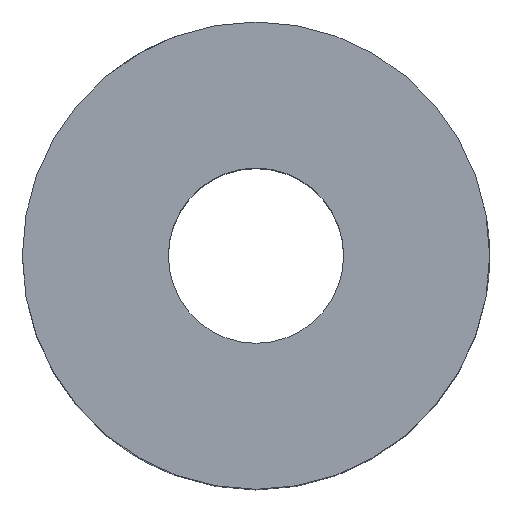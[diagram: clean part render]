
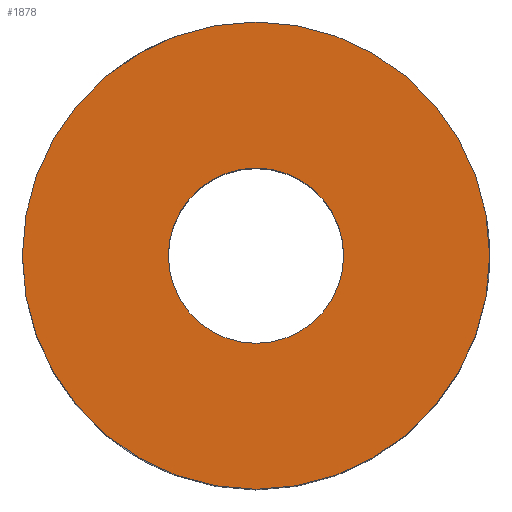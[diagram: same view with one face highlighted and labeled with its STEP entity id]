
A CAD part, top view. The second image highlights one B-rep face of the part: STEP entity #1878.
In plain terms, the highlighted planar face has unit normal (0, 0, 1).
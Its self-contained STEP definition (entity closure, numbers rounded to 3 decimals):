
#53 = CYLINDRICAL_SURFACE('',#54,120.);
#54 = AXIS2_PLACEMENT_3D('',#55,#56,#57);
#55 = CARTESIAN_POINT('',(0.,0.,-95.));
#56 = DIRECTION('',(-0.,-0.,-1.));
#57 = DIRECTION('',(1.,0.,0.));
#315 = VERTEX_POINT('',#316);
#316 = CARTESIAN_POINT('',(120.,0.,105.));
#337 = EDGE_CURVE('',#315,#315,#338,.T.);
#338 = SURFACE_CURVE('',#339,(#344,#351),.PCURVE_S1.);
#339 = CIRCLE('',#340,120.);
#340 = AXIS2_PLACEMENT_3D('',#341,#342,#343);
#341 = CARTESIAN_POINT('',(0.,0.,105.));
#342 = DIRECTION('',(0.,0.,1.));
#343 = DIRECTION('',(1.,0.,0.));
#344 = PCURVE('',#53,#345);
#345 = DEFINITIONAL_REPRESENTATION('',(#346),#350);
#346 = LINE('',#347,#348);
#347 = CARTESIAN_POINT('',(-0.,-200.));
#348 = VECTOR('',#349,1.);
#349 = DIRECTION('',(-1.,0.));
#350 = ( GEOMETRIC_REPRESENTATION_CONTEXT(2) 
PARAMETRIC_REPRESENTATION_CONTEXT() REPRESENTATION_CONTEXT('2D SPACE',''
  ) );
#351 = PCURVE('',#352,#357);
#352 = PLANE('',#353);
#353 = AXIS2_PLACEMENT_3D('',#354,#355,#356);
#354 = CARTESIAN_POINT('',(0.,0.,105.));
#355 = DIRECTION('',(0.,0.,1.));
#356 = DIRECTION('',(1.,0.,0.));
#357 = DEFINITIONAL_REPRESENTATION('',(#358),#362);
#358 = CIRCLE('',#359,120.);
#359 = AXIS2_PLACEMENT_2D('',#360,#361);
#360 = CARTESIAN_POINT('',(0.,0.));
#361 = DIRECTION('',(1.,0.));
#362 = ( GEOMETRIC_REPRESENTATION_CONTEXT(2) 
PARAMETRIC_REPRESENTATION_CONTEXT() REPRESENTATION_CONTEXT('2D SPACE',''
  ) );
#1878 = ADVANCED_FACE('',(#1879,#1882),#352,.T.);
#1879 = FACE_BOUND('',#1880,.T.);
#1880 = EDGE_LOOP('',(#1881));
#1881 = ORIENTED_EDGE('',*,*,#337,.T.);
#1882 = FACE_BOUND('',#1883,.T.);
#1883 = EDGE_LOOP('',(#1884));
#1884 = ORIENTED_EDGE('',*,*,#1885,.F.);
#1885 = EDGE_CURVE('',#1886,#1886,#1888,.T.);
#1886 = VERTEX_POINT('',#1887);
#1887 = CARTESIAN_POINT('',(45.,0.,105.));
#1888 = SURFACE_CURVE('',#1889,(#1894,#1901),.PCURVE_S1.);
#1889 = CIRCLE('',#1890,45.);
#1890 = AXIS2_PLACEMENT_3D('',#1891,#1892,#1893);
#1891 = CARTESIAN_POINT('',(0.,0.,105.));
#1892 = DIRECTION('',(0.,0.,1.));
#1893 = DIRECTION('',(1.,0.,0.));
#1894 = PCURVE('',#352,#1895);
#1895 = DEFINITIONAL_REPRESENTATION('',(#1896),#1900);
#1896 = CIRCLE('',#1897,45.);
#1897 = AXIS2_PLACEMENT_2D('',#1898,#1899);
#1898 = CARTESIAN_POINT('',(0.,0.));
#1899 = DIRECTION('',(1.,0.));
#1900 = ( GEOMETRIC_REPRESENTATION_CONTEXT(2) 
PARAMETRIC_REPRESENTATION_CONTEXT() REPRESENTATION_CONTEXT('2D SPACE',''
  ) );
#1901 = PCURVE('',#1902,#1907);
#1902 = CYLINDRICAL_SURFACE('',#1903,45.);
#1903 = AXIS2_PLACEMENT_3D('',#1904,#1905,#1906);
#1904 = CARTESIAN_POINT('',(0.,0.,-95.));
#1905 = DIRECTION('',(-0.,-0.,-1.));
#1906 = DIRECTION('',(1.,0.,0.));
#1907 = DEFINITIONAL_REPRESENTATION('',(#1908),#1912);
#1908 = LINE('',#1909,#1910);
#1909 = CARTESIAN_POINT('',(-0.,-200.));
#1910 = VECTOR('',#1911,1.);
#1911 = DIRECTION('',(-1.,0.));
#1912 = ( GEOMETRIC_REPRESENTATION_CONTEXT(2) 
PARAMETRIC_REPRESENTATION_CONTEXT() REPRESENTATION_CONTEXT('2D SPACE',''
  ) );
